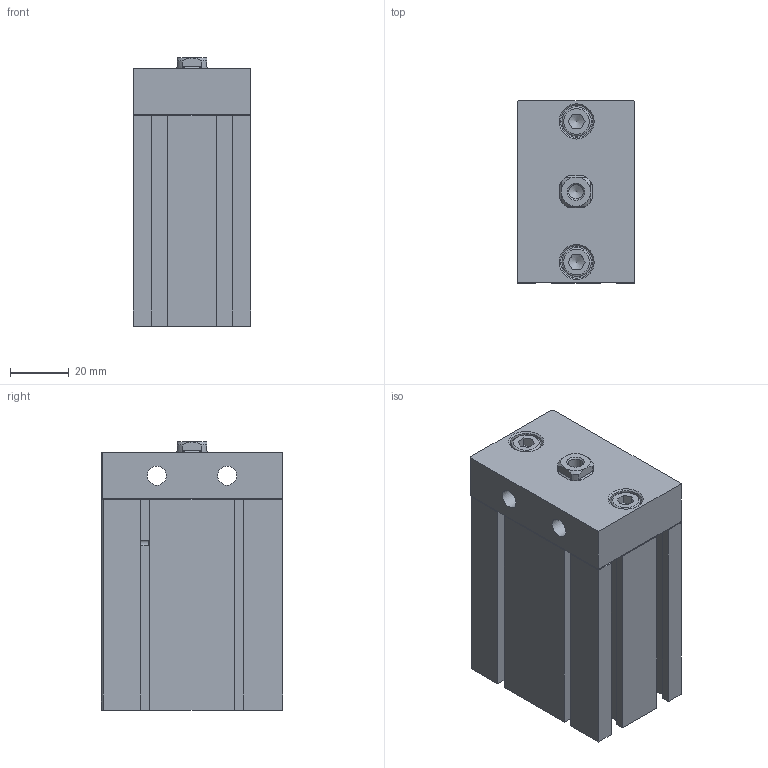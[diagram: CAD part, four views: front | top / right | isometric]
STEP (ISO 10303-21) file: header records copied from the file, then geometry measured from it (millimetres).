
FILE_DESCRIPTION((''),'2;1');
FILE_NAME('I:\3D電子目錄\氣缸\ND\ND\ND32\ND32x40.stp','2007-07-24T19:54:57',('Administrator'),(''),'Autodesk Inventor 11','Autodesk Inventor 11','');
FILE_SCHEMA(('AUTOMOTIVE_DESIGN { 1 0 10303 214 1 1 1 1 }'));
Length unit declared in the file: millimetre
Products named in the file (4): ND32; R 形環 34; ISO 4762 M6 x 16
Assembly tree (4 placements, depth 2):
  ND32
    ND32
    R 形環 34
    ISO 4762 M6 x 16  x2
Bounding box: 40 x 62.1 x 91.5 mm (x, y, z)
Volume: 191280.7 mm3; surface area: 39472.6 mm2
Topology: 5 solids, 5 shells, 195 faces, 479 edges, 305 vertices
Faces by surface type: plane 133, cylinder 25, cone 18, bspline 16, torus 3
Full cylindrical faces by diameter (mm): 1.9 x2, 2.2 x2, 6 x2, 6.5 x2, 10 x2, 11 x2, 23 x1, 34 x1, 36 x1
Entity records: 5301 total; most frequent: CARTESIAN_POINT 1111, DIRECTION 824, ORIENTED_EDGE 802, EDGE_CURVE 401, VECTOR 296, LINE 296, VERTEX_POINT 277, AXIS2_PLACEMENT_3D 264
